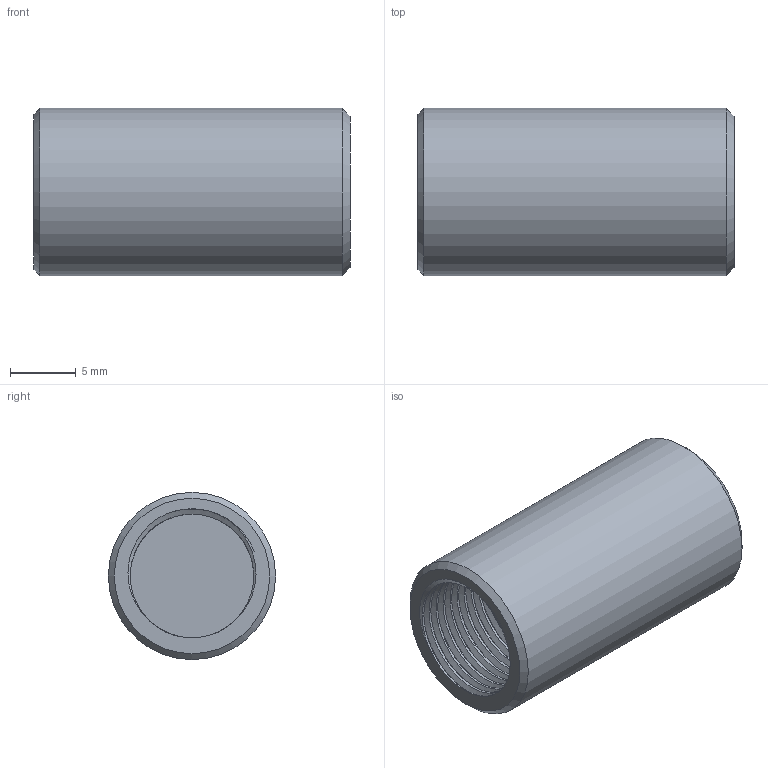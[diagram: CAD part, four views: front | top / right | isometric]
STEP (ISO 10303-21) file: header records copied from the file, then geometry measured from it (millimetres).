
FILE_DESCRIPTION(('Open CASCADE Model'),'2;1');
FILE_NAME('Open CASCADE Shape Model','2026-11-25T12:52:14',('Author'),( 'Open CASCADE'),'Open CASCADE STEP processor 8.0','Open CASCADE 8.0' ,'Unknown');
FILE_SCHEMA(('AP242_MANAGED_MODEL_BASED_3D_ENGINEERING_MIM_LF {1 0 10303 442 1 1 4 }' ));
Length unit declared in the file: millimetre
Products named in the file (1): Threaded cap
Bounding box: 24 x 12.7 x 12.7 mm (x, y, z)
Volume: 1224.1 mm3; surface area: 2071 mm2
Topology: 1 solids, 1 shells, 23 faces, 55 edges, 36 vertices
Faces by surface type: cylinder 14, plane 4, bspline 3, cone 2
Full cylindrical faces by diameter (mm): 9.388 x10, 10.3 x1, 12.7 x1
Entity records: 6770 total; most frequent: CARTESIAN_POINT 5793, DIRECTION 123, ORIENTED_EDGE 110, PCURVE 110, DEFINITIONAL_REPRESENTATION 110, B_SPLINE_CURVE_WITH_KNOTS 92, LINE 59, VECTOR 59
